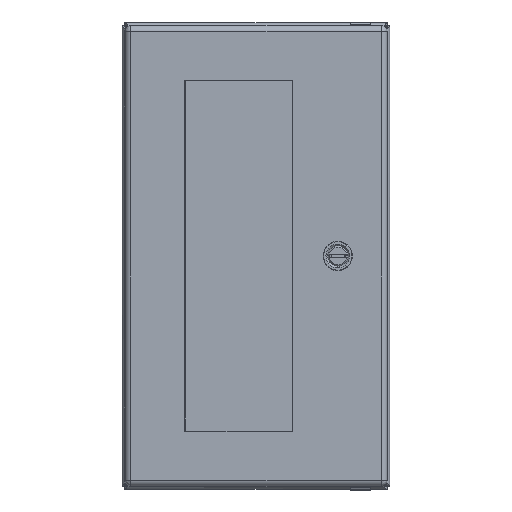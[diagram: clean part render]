
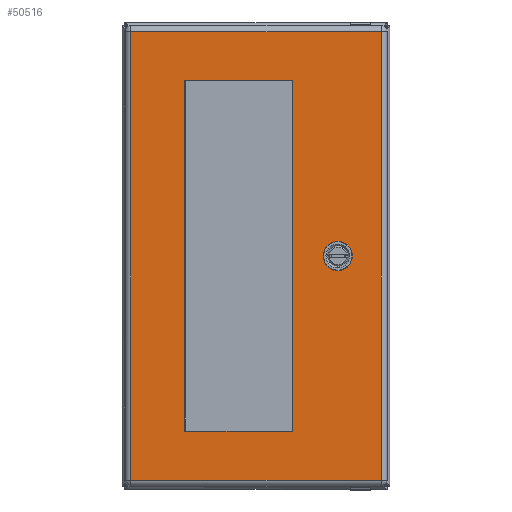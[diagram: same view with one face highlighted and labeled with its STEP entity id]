
A CAD part, top view. The second image highlights one B-rep face of the part: STEP entity #50516.
In plain terms, the highlighted planar face has unit normal (0, 0, 1).
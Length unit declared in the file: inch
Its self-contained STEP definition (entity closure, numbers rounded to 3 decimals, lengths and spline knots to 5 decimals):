
#149 = EDGE_CURVE ( 'NONE', #58056, #55736, #491, .T. ) ;
#417 = EDGE_LOOP ( 'NONE', ( #17617, #53261 ) ) ;
#491 = LINE ( 'NONE', #54651, #2819 ) ;
#820 = DIRECTION ( 'NONE',  ( 1., 0., 0. ) ) ;
#1218 = VECTOR ( 'NONE', #44276, 39.37008 ) ;
#1673 = ORIENTED_EDGE ( 'NONE', *, *, #28894, .F. ) ;
#2065 = EDGE_CURVE ( 'NONE', #27902, #54091, #38076, .T. ) ;
#2819 = VECTOR ( 'NONE', #35480, 39.37008 ) ;
#2995 = CARTESIAN_POINT ( 'NONE',  ( 2.488, 0., 0.069 ) ) ;
#3744 = DIRECTION ( 'NONE',  ( -1., 0., 0. ) ) ;
#4653 = VECTOR ( 'NONE', #7587, 39.37008 ) ;
#5174 = AXIS2_PLACEMENT_3D ( 'NONE', #2995, #61795, #32487 ) ;
#5414 = CARTESIAN_POINT ( 'NONE',  ( 2.933, 0., 0.069 ) ) ;
#5482 = ORIENTED_EDGE ( 'NONE', *, *, #2065, .F. ) ;
#5695 = VERTEX_POINT ( 'NONE', #48214 ) ;
#6449 = LINE ( 'NONE', #33671, #43396 ) ;
#6921 = EDGE_CURVE ( 'NONE', #45508, #27902, #13826, .T. ) ;
#7215 = CARTESIAN_POINT ( 'NONE',  ( 2.043, 0., 0.069 ) ) ;
#7393 = ORIENTED_EDGE ( 'NONE', *, *, #39663, .T. ) ;
#7587 = DIRECTION ( 'NONE',  ( -1., 0., 0. ) ) ;
#9322 = CIRCLE ( 'NONE', #5174, 0.445 ) ;
#10809 = CARTESIAN_POINT ( 'NONE',  ( -2.172, 5.3405, 0.069 ) ) ;
#10954 = VERTEX_POINT ( 'NONE', #7215 ) ;
#11804 = EDGE_CURVE ( 'NONE', #25736, #10954, #9322, .T. ) ;
#12304 = VECTOR ( 'NONE', #32115, 39.37008 ) ;
#13156 = LINE ( 'NONE', #57312, #4653 ) ;
#13826 = LINE ( 'NONE', #56478, #12304 ) ;
#14317 = LINE ( 'NONE', #19313, #1218 ) ;
#15326 = AXIS2_PLACEMENT_3D ( 'NONE', #23367, #37966, #3744 ) ;
#15440 = VERTEX_POINT ( 'NONE', #32646 ) ;
#16370 = ORIENTED_EDGE ( 'NONE', *, *, #149, .T. ) ;
#17138 = EDGE_CURVE ( 'NONE', #55736, #62405, #14317, .T. ) ;
#17617 = ORIENTED_EDGE ( 'NONE', *, *, #11804, .F. ) ;
#18395 = PLANE ( 'NONE',  #15326 ) ;
#19313 = CARTESIAN_POINT ( 'NONE',  ( -3.81, -6.828, 0.069 ) ) ;
#20509 = ORIENTED_EDGE ( 'NONE', *, *, #37866, .T. ) ;
#21398 = DIRECTION ( 'NONE',  ( -1., 0., 0. ) ) ;
#21747 = CARTESIAN_POINT ( 'NONE',  ( -3.81, -6.828, 0.069 ) ) ;
#23367 = CARTESIAN_POINT ( 'NONE',  ( 3.809, -6.828, 0.069 ) ) ;
#23543 = ORIENTED_EDGE ( 'NONE', *, *, #56223, .F. ) ;
#24850 = DIRECTION ( 'NONE',  ( 1., 0., 0. ) ) ;
#25736 = VERTEX_POINT ( 'NONE', #5414 ) ;
#26186 = ORIENTED_EDGE ( 'NONE', *, *, #6921, .F. ) ;
#27902 = VERTEX_POINT ( 'NONE', #54160 ) ;
#28274 = FACE_OUTER_BOUND ( 'NONE', #40587, .T. ) ;
#28894 = EDGE_CURVE ( 'NONE', #54091, #15440, #36661, .T. ) ;
#30215 = DIRECTION ( 'NONE',  ( 0., 0., 1. ) ) ;
#32115 = DIRECTION ( 'NONE',  ( 0., -1., 0. ) ) ;
#32487 = DIRECTION ( 'NONE',  ( 1., 0., 0. ) ) ;
#32646 = CARTESIAN_POINT ( 'NONE',  ( 1.114, 5.3405, 0.069 ) ) ;
#33671 = CARTESIAN_POINT ( 'NONE',  ( 3.809, 6.828, 0.069 ) ) ;
#34520 = CARTESIAN_POINT ( 'NONE',  ( 1.114, 5.3405, 0.069 ) ) ;
#34764 = VECTOR ( 'NONE', #21398, 39.37008 ) ;
#35480 = DIRECTION ( 'NONE',  ( 0., -1., 0. ) ) ;
#35600 = EDGE_LOOP ( 'NONE', ( #5482, #26186, #23543, #1673 ) ) ;
#36661 = LINE ( 'NONE', #34520, #52862 ) ;
#37866 = EDGE_CURVE ( 'NONE', #62405, #5695, #6449, .T. ) ;
#37966 = DIRECTION ( 'NONE',  ( 0., 0., -1. ) ) ;
#38076 = LINE ( 'NONE', #45570, #40381 ) ;
#38268 = FACE_BOUND ( 'NONE', #35600, .T. ) ;
#39372 = LINE ( 'NONE', #51079, #34764 ) ;
#39464 = DIRECTION ( 'NONE',  ( 0., 1., 0. ) ) ;
#39663 = EDGE_CURVE ( 'NONE', #5695, #58056, #39372, .T. ) ;
#40381 = VECTOR ( 'NONE', #820, 39.37008 ) ;
#40585 = FACE_BOUND ( 'NONE', #417, .T. ) ;
#40587 = EDGE_LOOP ( 'NONE', ( #40759, #20509, #7393, #16370 ) ) ;
#40759 = ORIENTED_EDGE ( 'NONE', *, *, #17138, .T. ) ;
#43029 = CARTESIAN_POINT ( 'NONE',  ( -3.81, 6.828, 0.069 ) ) ;
#43396 = VECTOR ( 'NONE', #48536, 39.37008 ) ;
#44158 = AXIS2_PLACEMENT_3D ( 'NONE', #54344, #30215, #24850 ) ;
#44276 = DIRECTION ( 'NONE',  ( 1., 0., 0. ) ) ;
#45508 = VERTEX_POINT ( 'NONE', #10809 ) ;
#45570 = CARTESIAN_POINT ( 'NONE',  ( -2.172, -5.3405, 0.069 ) ) ;
#48214 = CARTESIAN_POINT ( 'NONE',  ( 3.809, 6.828, 0.069 ) ) ;
#48437 = CARTESIAN_POINT ( 'NONE',  ( 1.114, -5.3405, 0.069 ) ) ;
#48536 = DIRECTION ( 'NONE',  ( 0., 1., 0. ) ) ;
#49124 = CIRCLE ( 'NONE', #44158, 0.445 ) ;
#50516 = ADVANCED_FACE ( 'NONE', ( #38268, #28274, #40585 ), #18395, .F. ) ;
#51079 = CARTESIAN_POINT ( 'NONE',  ( -3.81, 6.828, 0.069 ) ) ;
#52862 = VECTOR ( 'NONE', #39464, 39.37008 ) ;
#53261 = ORIENTED_EDGE ( 'NONE', *, *, #62270, .F. ) ;
#54091 = VERTEX_POINT ( 'NONE', #48437 ) ;
#54160 = CARTESIAN_POINT ( 'NONE',  ( -2.172, -5.3405, 0.069 ) ) ;
#54344 = CARTESIAN_POINT ( 'NONE',  ( 2.488, 0., 0.069 ) ) ;
#54651 = CARTESIAN_POINT ( 'NONE',  ( -3.81, 6.828, 0.069 ) ) ;
#55736 = VERTEX_POINT ( 'NONE', #21747 ) ;
#56223 = EDGE_CURVE ( 'NONE', #15440, #45508, #13156, .T. ) ;
#56478 = CARTESIAN_POINT ( 'NONE',  ( -2.172, 5.3405, 0.069 ) ) ;
#57312 = CARTESIAN_POINT ( 'NONE',  ( -2.172, 5.3405, 0.069 ) ) ;
#58056 = VERTEX_POINT ( 'NONE', #43029 ) ;
#60729 = CARTESIAN_POINT ( 'NONE',  ( 3.809, -6.828, 0.069 ) ) ;
#61795 = DIRECTION ( 'NONE',  ( 0., 0., 1. ) ) ;
#62270 = EDGE_CURVE ( 'NONE', #10954, #25736, #49124, .T. ) ;
#62405 = VERTEX_POINT ( 'NONE', #60729 ) ;
